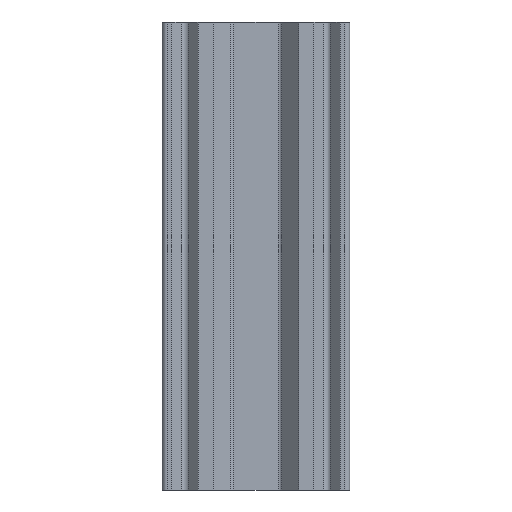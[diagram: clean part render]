
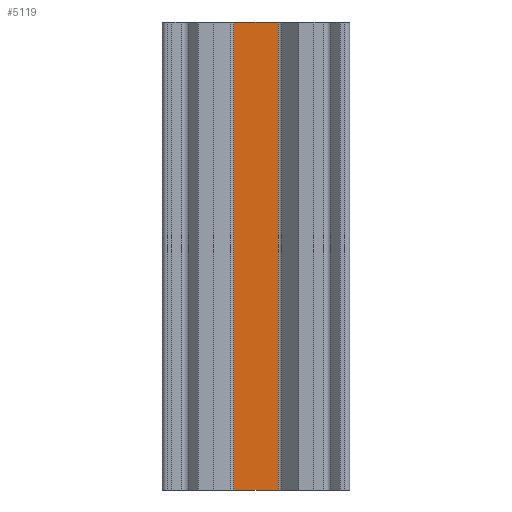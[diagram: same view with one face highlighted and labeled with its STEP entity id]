
A CAD part, front view. The second image highlights one B-rep face of the part: STEP entity #5119.
In plain terms, the highlighted planar face has unit normal (0, -1, 0).
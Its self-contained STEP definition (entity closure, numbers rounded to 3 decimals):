
#110=DIRECTION('',(1.,0.,0.));
#111=VECTOR('',#110,2.379);
#112=CARTESIAN_POINT('',(-1.189,-2.,-12.5));
#113=LINE('',#112,#111);
#332=DIRECTION('',(1.,0.,0.));
#333=VECTOR('',#332,2.379);
#334=CARTESIAN_POINT('',(-1.189,-2.,12.5));
#335=LINE('',#334,#333);
#769=DIRECTION('',(0.,0.,1.));
#770=VECTOR('',#769,25.);
#771=CARTESIAN_POINT('',(1.189,-2.,-12.5));
#772=LINE('',#771,#770);
#787=DIRECTION('',(0.,0.,-1.));
#788=VECTOR('',#787,25.);
#789=CARTESIAN_POINT('',(-1.189,-2.,12.5));
#790=LINE('',#789,#788);
#1182=CARTESIAN_POINT('',(-1.189,-2.,12.5));
#1183=CARTESIAN_POINT('',(-1.189,-2.,-12.5));
#1184=VERTEX_POINT('',#1182);
#1185=VERTEX_POINT('',#1183);
#1190=CARTESIAN_POINT('',(1.189,-2.,-12.5));
#1191=CARTESIAN_POINT('',(1.189,-2.,12.5));
#1192=VERTEX_POINT('',#1190);
#1193=VERTEX_POINT('',#1191);
#1338=CARTESIAN_POINT('',(0.,0.,-12.5));
#1339=DIRECTION('',(0.,0.,1.));
#1340=DIRECTION('',(1.,0.,0.));
#1341=AXIS2_PLACEMENT_3D('',#1338,#1339,#1340);
#1342=PLANE('',#1341);
#1348=(GEOMETRIC_REPRESENTATION_CONTEXT(2)PARAMETRIC_REPRESENTATION_CONTEXT()REPRESENTATION_CONTEXT('ID1','2'));
#1718=DIRECTION('',(1.,0.));
#1719=VECTOR('',#1718,2.379);
#1720=CARTESIAN_POINT('',(-1.189,-2.));
#1721=LINE('',#1720,#1719);
#1722=TRIMMED_CURVE('',#1721,(PARAMETER_VALUE(0.)),(PARAMETER_VALUE(1.)),
.T.,.UNSPECIFIED.);
#1723=DEFINITIONAL_REPRESENTATION('',(#1722),#1348);
#1724=PCURVE('',#1342,#1723);
#2308=CARTESIAN_POINT('',(0.,0.,12.5));
#2309=DIRECTION('',(0.,0.,1.));
#2310=DIRECTION('',(1.,0.,0.));
#2311=AXIS2_PLACEMENT_3D('',#2308,#2309,#2310);
#2312=PLANE('',#2311);
#2671=DIRECTION('',(1.,0.));
#2672=VECTOR('',#2671,2.379);
#2673=CARTESIAN_POINT('',(-1.189,-2.));
#2674=LINE('',#2673,#2672);
#2675=TRIMMED_CURVE('',#2674,(PARAMETER_VALUE(0.)),(PARAMETER_VALUE(1.)),
.T.,.UNSPECIFIED.);
#2676=DEFINITIONAL_REPRESENTATION('',(#2675),#1348);
#2677=PCURVE('',#2312,#2676);
#5038=CARTESIAN_POINT('',(1.189,-2.25,-12.538));
#5039=DIRECTION('',(0.,0.,1.));
#5040=DIRECTION('',(0.707,0.707,0.));
#5041=AXIS2_PLACEMENT_3D('',#5038,#5039,#5040);
#5042=CYLINDRICAL_SURFACE('',#5041,0.25);
#5057=DIRECTION('',(0.,1.));
#5058=VECTOR('',#5057,25.);
#5059=CARTESIAN_POINT('',(45.,0.038));
#5060=LINE('',#5059,#5058);
#5061=TRIMMED_CURVE('',#5060,(PARAMETER_VALUE(0.)),(PARAMETER_VALUE(1.)),
.T.,.UNSPECIFIED.);
#5062=DEFINITIONAL_REPRESENTATION('',(#5061),#1348);
#5063=PCURVE('',#5042,#5062);
#5079=CARTESIAN_POINT('',(-2.,-2.,-12.5));
#5080=DIRECTION('',(0.,-1.,0.));
#5081=DIRECTION('',(1.,0.,0.));
#5082=AXIS2_PLACEMENT_3D('',#5079,#5080,#5081);
#5083=PLANE('',#5082);
#5084=DIRECTION('',(0.,-1.));
#5085=VECTOR('',#5084,25.);
#5086=CARTESIAN_POINT('',(0.811,25.));
#5087=LINE('',#5086,#5085);
#5088=TRIMMED_CURVE('',#5087,(PARAMETER_VALUE(0.)),(PARAMETER_VALUE(1.)),
.T.,.UNSPECIFIED.);
#5089=DEFINITIONAL_REPRESENTATION('',(#5088),#1348);
#5090=PCURVE('',#5083,#5089);
#5091=DIRECTION('',(1.,0.));
#5092=VECTOR('',#5091,2.379);
#5093=CARTESIAN_POINT('',(0.811,25.));
#5094=LINE('',#5093,#5092);
#5095=TRIMMED_CURVE('',#5094,(PARAMETER_VALUE(0.)),(PARAMETER_VALUE(1.)),
.T.,.UNSPECIFIED.);
#5096=DEFINITIONAL_REPRESENTATION('',(#5095),#1348);
#5097=PCURVE('',#5083,#5096);
#5098=DIRECTION('',(0.,1.));
#5099=VECTOR('',#5098,25.);
#5100=CARTESIAN_POINT('',(3.189,0.));
#5101=LINE('',#5100,#5099);
#5102=TRIMMED_CURVE('',#5101,(PARAMETER_VALUE(0.)),(PARAMETER_VALUE(1.)),
.T.,.UNSPECIFIED.);
#5103=DEFINITIONAL_REPRESENTATION('',(#5102),#1348);
#5104=PCURVE('',#5083,#5103);
#5105=DIRECTION('',(1.,0.));
#5106=VECTOR('',#5105,2.379);
#5107=CARTESIAN_POINT('',(0.811,0.));
#5108=LINE('',#5107,#5106);
#5109=TRIMMED_CURVE('',#5108,(PARAMETER_VALUE(0.)),(PARAMETER_VALUE(1.)),
.T.,.UNSPECIFIED.);
#5110=DEFINITIONAL_REPRESENTATION('',(#5109),#1348);
#5111=PCURVE('',#5083,#5110);
#5113=ORIENTED_EDGE('',*,*,#5112,.F.);
#5114=ORIENTED_EDGE('',*,*,#3107,.T.);
#5115=ORIENTED_EDGE('',*,*,#5073,.F.);
#5116=ORIENTED_EDGE('',*,*,#2144,.F.);
#5117=EDGE_LOOP('',(#5113,#5114,#5115,#5116));
#5118=FACE_OUTER_BOUND('',#5117,.F.);
#5119=ADVANCED_FACE('',(#5118),#5083,.T.);
#5120=CARTESIAN_POINT('',(-1.189,-2.25,12.545));
#5121=DIRECTION('',(0.,0.,-1.));
#5122=DIRECTION('',(-0.707,0.707,0.));
#5123=AXIS2_PLACEMENT_3D('',#5120,#5121,#5122);
#5124=CYLINDRICAL_SURFACE('',#5123,0.25);
#5139=DIRECTION('',(0.,1.));
#5140=VECTOR('',#5139,25.);
#5141=CARTESIAN_POINT('',(45.,0.045));
#5142=LINE('',#5141,#5140);
#5143=TRIMMED_CURVE('',#5142,(PARAMETER_VALUE(0.)),(PARAMETER_VALUE(1.)),
.T.,.UNSPECIFIED.);
#5144=DEFINITIONAL_REPRESENTATION('',(#5143),#1348);
#5145=PCURVE('',#5124,#5144);
#2144=EDGE_CURVE('',#1185,#1192,#6477,.T.);
#3107=EDGE_CURVE('',#1184,#1193,#6481,.T.);
#5073=EDGE_CURVE('',#1192,#1193,#6438,.T.);
#5112=EDGE_CURVE('',#1184,#1185,#6436,.T.);
#6436=SURFACE_CURVE('',#790,(#5090,#5145),.PCURVE_S2.);
#6438=SURFACE_CURVE('',#772,(#5104,#5063),.PCURVE_S2.);
#6477=SURFACE_CURVE('',#113,(#5111,#1724),.PCURVE_S1.);
#6481=SURFACE_CURVE('',#335,(#2677,#5097),.PCURVE_S1.);
